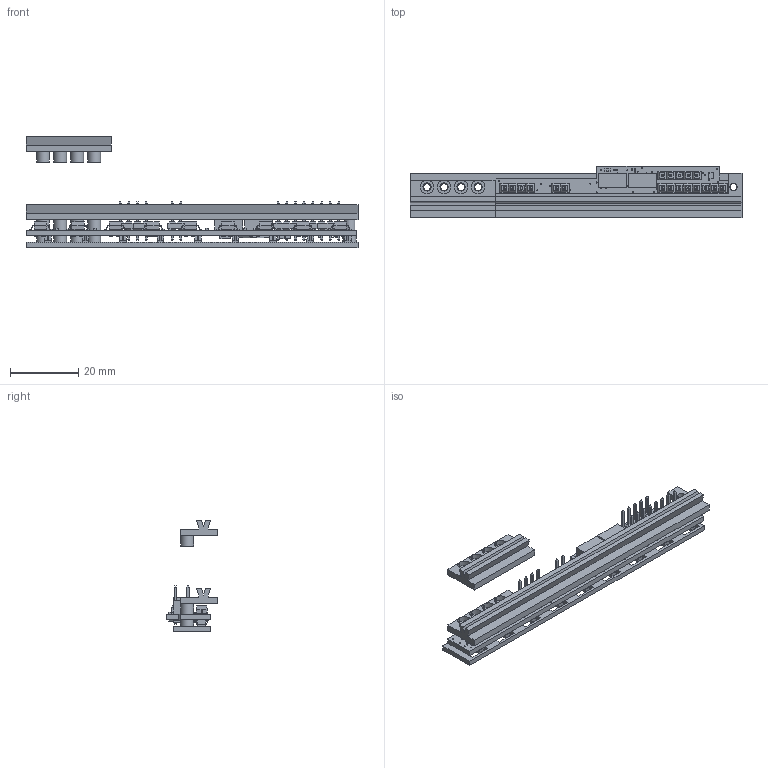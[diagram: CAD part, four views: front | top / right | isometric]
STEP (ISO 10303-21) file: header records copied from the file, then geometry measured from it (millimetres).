
FILE_DESCRIPTION(/* description */ (''),/* implementation_level */ '2;1');
FILE_NAME(/* name */ 'C:/Users/priba/Documents/Temp/mrm-ref-canHolderFT.step',/* time_stamp */ '2019-11-02T00:02:46+01:00',/* author */ (''),/* organization */ (''),/* preprocessor_version */ 'ST-DEVELOPER v18',/* originating_system */ 'Autodesk Translation Framework v8.9.1.1155',/* authorisation */ '');
FILE_SCHEMA (('AUTOMOTIVE_DESIGN { 1 0 10303 214 3 1 1 }'));
Length unit declared in the file: millimetre
Products named in the file (42): mrm-ref-canHolderFT; Holder; mrm-ref-can v2; PCB Component (1); Board (1); OPTEK_OP181; 120 Ohm; STM32F072C8U6; Body (1) (1); ThermalPin (1); PinsArrayLR (1); PinsArrayTB (1); INFINEON_TLE9250XLEXUMA1; SOT-23 (1); 1X03 (1); 1X05 (1); ON_SEMICONDUCTOR_QSB363GR; ON_SEMICONDUCTOR_QSB363GR_1; ON_SEMICONDUCTOR_QSB363GR_2; ON_SEMICONDUCTOR_QSB363GR_3; ON_SEMICONDUCTOR_QSB363GR_4; ON_SEMICONDUCTOR_QSB363GR_5; ON_SEMICONDUCTOR_QSB363GR_6; ON_SEMICONDUCTOR_QSB363GR_7; ON_SEMICONDUCTOR_QSB363GR_8; Body (2); FilletPinL (1); FilletPinR (1); FIDUCIAL1X2; JST_BM04B-GHK-TBT; 1X02 (1); 1.5 kOhm; 100 nF; TI_TPD8E003DQDR; Body (2) (1); ThermalPin (1) (1); PinsArrayLR (1) (1); TI_ESD321DPYR; term1; term2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
Assembly tree (112 placements, depth 5):
  mrm-ref-canHolderFT
    Holder
    mrm-ref-can v2
      PCB Component (1)
        Board (1)
        OPTEK_OP181  x9
        120 Ohm  x19
        STM32F072C8U6
          Body (1) (1)
          ThermalPin (1)
          PinsArrayLR (1)
          PinsArrayTB (1)
        INFINEON_TLE9250XLEXUMA1
        1X05 (1)  x2
        SOT-23 (1)
        1X03 (1)
        ON_SEMICONDUCTOR_QSB363GR
          Body (2)
          FilletPinL (1)
          FilletPinR (1)
        ON_SEMICONDUCTOR_QSB363GR_1
          Body (2)
          FilletPinL (1)
          FilletPinR (1)
        ON_SEMICONDUCTOR_QSB363GR_2
          Body (2)
          FilletPinL (1)
          FilletPinR (1)
        ON_SEMICONDUCTOR_QSB363GR_3
          Body (2)
          FilletPinL (1)
          FilletPinR (1)
        ON_SEMICONDUCTOR_QSB363GR_4
          Body (2)
          FilletPinL (1)
          FilletPinR (1)
        ON_SEMICONDUCTOR_QSB363GR_5
          Body (2)
          FilletPinL (1)
          FilletPinR (1)
        ON_SEMICONDUCTOR_QSB363GR_6
          Body (2)
          FilletPinL (1)
          FilletPinR (1)
        ON_SEMICONDUCTOR_QSB363GR_7
          Body (2)
          FilletPinL (1)
          FilletPinR (1)
        ON_SEMICONDUCTOR_QSB363GR_8
          Body (2)
          FilletPinL (1)
          FilletPinR (1)
        FIDUCIAL1X2  x4
        JST_BM04B-GHK-TBT  x2
        1X02 (1)  x3
        1.5 kOhm  x10
        100 nF  x6
        TI_TPD8E003DQDR
          Body (2) (1)
          ThermalPin (1) (1)
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Bounding box: 97.5 x 15.1 x 32.6 mm (x, y, z)
Volume: 6931.4 mm3; surface area: 12292.3 mm2
Topology: 178 solids, 178 shells, 4554 faces, 12378 edges, 8247 vertices
Faces by surface type: plane 2885, cylinder 1126, sphere 385, bspline 158
Full cylindrical faces by diameter (mm): 0.169 x1, 0.3 x89, 0.875 x1, 1.016 x19, 1.8 x9, 1.956 x9, 2 x8, 2.1 x1, 2.4 x13, 3.2 x1, 3.8 x12, 4 x1
Entity records: 47857 total; most frequent: CARTESIAN_POINT 10180, DIRECTION 7188, ORIENTED_EDGE 7158, EDGE_CURVE 3579, LINE 2584, VECTOR 2584, AXIS2_PLACEMENT_3D 2302, VERTEX_POINT 2301
